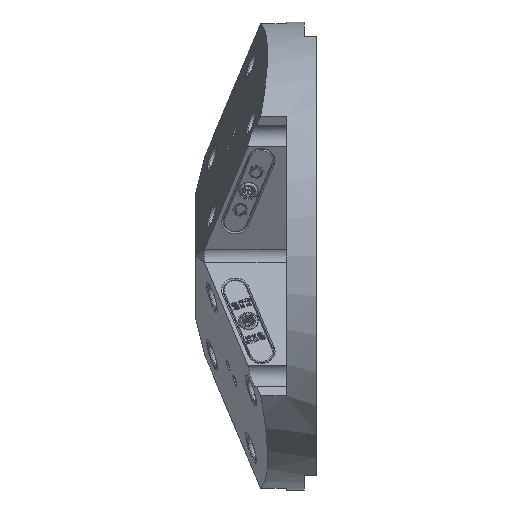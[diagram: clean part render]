
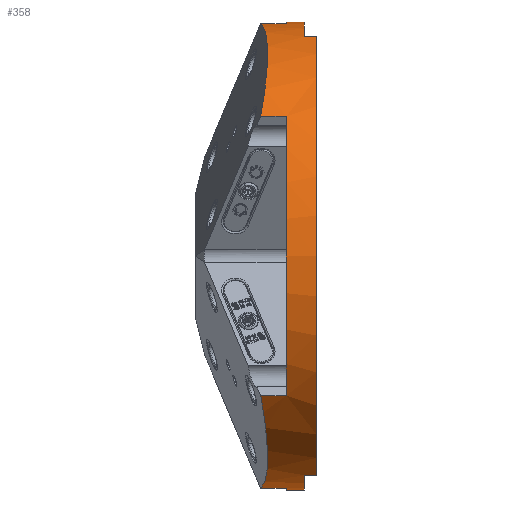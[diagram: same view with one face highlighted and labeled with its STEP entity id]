
A CAD part, left-side view. The second image highlights one B-rep face of the part: STEP entity #358.
In plain terms, the highlighted cylindrical face has radius 196.5 mm (diameter 393 mm), a partial arc.
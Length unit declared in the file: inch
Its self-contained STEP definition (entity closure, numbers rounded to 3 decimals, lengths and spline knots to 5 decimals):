
#60 = EDGE_LOOP ( 'NONE', ( #12208, #36013, #10609, #15974, #13720, #35684, #26971, #6933, #20274, #17112, #17372, #28472, #35322, #21937, #43546, #18135 ) ) ;
#358 = ADVANCED_FACE ( 'NONE', ( #5625 ), #1745, .T. ) ;
#430 = EDGE_CURVE ( 'NONE', #22010, #15156, #37328, .T. ) ;
#592 = CARTESIAN_POINT ( 'NONE',  ( 7.73622, 0., 1. ) ) ;
#845 = VERTEX_POINT ( 'NONE', #8483 ) ;
#865 = VECTOR ( 'NONE', #38716, 39.37008 ) ;
#1134 = DIRECTION ( 'NONE',  ( 0., 0., 1. ) ) ;
#1369 = CARTESIAN_POINT ( 'NONE',  ( 7.73622, 0., 1.6 ) ) ;
#1745 = CYLINDRICAL_SURFACE ( 'NONE', #10310, 7.73622 ) ;
#2068 = CARTESIAN_POINT ( 'NONE',  ( 4.61389, 6.20976, 0.15453 ) ) ;
#2161 = CIRCLE ( 'NONE', #29209, 7.73622 ) ;
#2182 = DIRECTION ( 'NONE',  ( 0., 0., 1. ) ) ;
#2308 = LINE ( 'NONE', #17087, #40942 ) ;
#2365 = CARTESIAN_POINT ( 'NONE',  ( 7.25, 2.69937, -2.1 ) ) ;
#2553 = DIRECTION ( 'NONE',  ( 0., 0., 1. ) ) ;
#2644 = CARTESIAN_POINT ( 'NONE',  ( -7.73622, 0., 1.6 ) ) ;
#2863 = LINE ( 'NONE', #2365, #37689 ) ;
#2976 = CARTESIAN_POINT ( 'NONE',  ( 0., 0., 2. ) ) ;
#3037 = CARTESIAN_POINT ( 'NONE',  ( -7.25, 2.69937, -2.1 ) ) ;
#3417 = AXIS2_PLACEMENT_3D ( 'NONE', #4604, #30248, #45513 ) ;
#3474 = VERTEX_POINT ( 'NONE', #1369 ) ;
#3814 = VECTOR ( 'NONE', #2182, 39.37008 ) ;
#4196 = EDGE_CURVE ( 'NONE', #15558, #25435, #39422, .T. ) ;
#4604 = CARTESIAN_POINT ( 'NONE',  ( 0., 0., 1. ) ) ;
#5535 = CARTESIAN_POINT ( 'NONE',  ( 7.68476, 0.89086, 0.15453 ) ) ;
#5589 = CARTESIAN_POINT ( 'NONE',  ( 0., 0., 1. ) ) ;
#5625 = FACE_OUTER_BOUND ( 'NONE', #60, .T. ) ;
#6186 = LINE ( 'NONE', #23690, #7235 ) ;
#6200 = VERTEX_POINT ( 'NONE', #8059 ) ;
#6933 = ORIENTED_EDGE ( 'NONE', *, *, #9392, .F. ) ;
#6983 = VERTEX_POINT ( 'NONE', #37564 ) ;
#7235 = VECTOR ( 'NONE', #45709, 39.37008 ) ;
#7389 = AXIS2_PLACEMENT_3D ( 'NONE', #19541, #1134, #27022 ) ;
#8059 = CARTESIAN_POINT ( 'NONE',  ( 7.25, 2.69937, 1.6 ) ) ;
#8483 = CARTESIAN_POINT ( 'NONE',  ( -7.25, 2.69937, 1.6 ) ) ;
#8725 = CARTESIAN_POINT ( 'NONE',  ( 7.73622, 0., -2.1 ) ) ;
#9101 = CARTESIAN_POINT ( 'NONE',  ( 7.43534, 3.04233, 0.46745 ) ) ;
#9392 = EDGE_CURVE ( 'NONE', #12611, #3474, #20357, .T. ) ;
#10310 = AXIS2_PLACEMENT_3D ( 'NONE', #12899, #17011, #27154 ) ;
#10473 = CIRCLE ( 'NONE', #7389, 7.73622 ) ;
#10609 = ORIENTED_EDGE ( 'NONE', *, *, #24639, .F. ) ;
#11521 = EDGE_CURVE ( 'NONE', #3474, #6200, #2161, .T. ) ;
#12208 = ORIENTED_EDGE ( 'NONE', *, *, #22668, .F. ) ;
#12611 = VERTEX_POINT ( 'NONE', #592 ) ;
#12618 = AXIS2_PLACEMENT_3D ( 'NONE', #42653, #13364, #32708 ) ;
#12899 = CARTESIAN_POINT ( 'NONE',  ( 0., 0., -2.1 ) ) ;
#13364 = DIRECTION ( 'NONE',  ( 0., 0., -1. ) ) ;
#13387 = DIRECTION ( 'NONE',  ( 0., 0., 1. ) ) ;
#13720 = ORIENTED_EDGE ( 'NONE', *, *, #32294, .F. ) ;
#14477 = LINE ( 'NONE', #14699, #16046 ) ;
#14699 = CARTESIAN_POINT ( 'NONE',  ( -7.68476, 0.89086, 1. ) ) ;
#14933 = VERTEX_POINT ( 'NONE', #30626 ) ;
#15156 = VERTEX_POINT ( 'NONE', #25987 ) ;
#15558 = VERTEX_POINT ( 'NONE', #19633 ) ;
#15974 = ORIENTED_EDGE ( 'NONE', *, *, #35511, .T. ) ;
#16046 = VECTOR ( 'NONE', #25812, 39.37008 ) ;
#16710 = EDGE_CURVE ( 'NONE', #43352, #6200, #2863, .T. ) ;
#16810 = EDGE_CURVE ( 'NONE', #24006, #39022, #14477, .T. ) ;
#17011 = DIRECTION ( 'NONE',  ( 0., 0., 1. ) ) ;
#17087 = CARTESIAN_POINT ( 'NONE',  ( 7.68476, 0.89086, 1. ) ) ;
#17112 = ORIENTED_EDGE ( 'NONE', *, *, #34506, .T. ) ;
#17372 = ORIENTED_EDGE ( 'NONE', *, *, #39296, .F. ) ;
#17740 = DIRECTION ( 'NONE',  ( 0., 0., -1. ) ) ;
#18135 = ORIENTED_EDGE ( 'NONE', *, *, #16810, .F. ) ;
#18753 = DIRECTION ( 'NONE',  ( 0., 0., -1. ) ) ;
#18857 = CARTESIAN_POINT ( 'NONE',  ( 7.25, 2.69937, 2. ) ) ;
#19492 = CARTESIAN_POINT ( 'NONE',  ( -6.35241, 4.91803, 0.46745 ) ) ;
#19541 = CARTESIAN_POINT ( 'NONE',  ( 0., 0., 1.6 ) ) ;
#19633 = CARTESIAN_POINT ( 'NONE',  ( -7.73622, 0., 1. ) ) ;
#20274 = ORIENTED_EDGE ( 'NONE', *, *, #26750, .F. ) ;
#20357 = LINE ( 'NONE', #8725, #3814 ) ;
#21355 = LINE ( 'NONE', #36110, #41831 ) ;
#21559 = DIRECTION ( 'NONE',  ( -1., 0., 0. ) ) ;
#21937 = ORIENTED_EDGE ( 'NONE', *, *, #41241, .T. ) ;
#21943 = CARTESIAN_POINT ( 'NONE',  ( 7.68476, 0.89086, 1. ) ) ;
#22010 = VERTEX_POINT ( 'NONE', #30938 ) ;
#22668 = EDGE_CURVE ( 'NONE', #15558, #24006, #45920, .T. ) ;
#22913 =( BOUNDED_CURVE ( )  B_SPLINE_CURVE ( 3, ( #2068, #35460, #9101, #27709 ),
 .UNSPECIFIED., .F., .F. ) 
 B_SPLINE_CURVE_WITH_KNOTS ( ( 4, 4 ),
 ( 5.875, 6.69137 ),
 .UNSPECIFIED. ) 
 CURVE ( )  GEOMETRIC_REPRESENTATION_ITEM ( )  RATIONAL_B_SPLINE_CURVE ( ( 1., 0.945, 0.945, 1. ) ) 
 REPRESENTATION_ITEM ( '' )  );
#23600 = CARTESIAN_POINT ( 'NONE',  ( -7.68476, 0.89086, 0.15453 ) ) ;
#23690 = CARTESIAN_POINT ( 'NONE',  ( -4.61389, 6.20976, 1. ) ) ;
#24006 = VERTEX_POINT ( 'NONE', #35850 ) ;
#24181 = CARTESIAN_POINT ( 'NONE',  ( -7.73622, 0., -2.1 ) ) ;
#24639 = EDGE_CURVE ( 'NONE', #845, #25435, #10473, .T. ) ;
#24811 = LINE ( 'NONE', #3037, #34031 ) ;
#25435 = VERTEX_POINT ( 'NONE', #2644 ) ;
#25812 = DIRECTION ( 'NONE',  ( 0., 0., -1. ) ) ;
#25987 = CARTESIAN_POINT ( 'NONE',  ( 4.61389, 6.20976, 1. ) ) ;
#26750 = EDGE_CURVE ( 'NONE', #30534, #12611, #43633, .T. ) ;
#26971 = ORIENTED_EDGE ( 'NONE', *, *, #11521, .F. ) ;
#27015 = VERTEX_POINT ( 'NONE', #5535 ) ;
#27022 = DIRECTION ( 'NONE',  ( 1., 0., 0. ) ) ;
#27154 = DIRECTION ( 'NONE',  ( 1., 0., 0. ) ) ;
#27457 = CARTESIAN_POINT ( 'NONE',  ( -4.61389, 6.20976, 0.15453 ) ) ;
#27709 = CARTESIAN_POINT ( 'NONE',  ( 7.68476, 0.89086, 0.15453 ) ) ;
#28472 = ORIENTED_EDGE ( 'NONE', *, *, #44472, .F. ) ;
#29209 = AXIS2_PLACEMENT_3D ( 'NONE', #37613, #33979, #29875 ) ;
#29875 = DIRECTION ( 'NONE',  ( 1., 0., 0. ) ) ;
#29975 =( BOUNDED_CURVE ( )  B_SPLINE_CURVE ( 3, ( #23600, #30609, #19492, #27457 ),
 .UNSPECIFIED., .F., .T. ) 
 B_SPLINE_CURVE_WITH_KNOTS ( ( 4, 4 ),
 ( 5.875, 6.69137 ),
 .UNSPECIFIED. ) 
 CURVE ( )  GEOMETRIC_REPRESENTATION_ITEM ( )  RATIONAL_B_SPLINE_CURVE ( ( 1., 0.945, 0.945, 1. ) ) 
 REPRESENTATION_ITEM ( '' )  );
#30248 = DIRECTION ( 'NONE',  ( 0., 0., -1. ) ) ;
#30534 = VERTEX_POINT ( 'NONE', #21943 ) ;
#30609 = CARTESIAN_POINT ( 'NONE',  ( -7.43534, 3.04233, 0.46745 ) ) ;
#30626 = CARTESIAN_POINT ( 'NONE',  ( 4.61389, 6.20976, 0.15453 ) ) ;
#30938 = CARTESIAN_POINT ( 'NONE',  ( -4.61389, 6.20976, 1. ) ) ;
#31329 = CARTESIAN_POINT ( 'NONE',  ( -7.68476, 0.89086, 0.15453 ) ) ;
#31457 = CIRCLE ( 'NONE', #42317, 7.73622 ) ;
#32294 = EDGE_CURVE ( 'NONE', #43352, #42763, #31457, .T. ) ;
#32708 = DIRECTION ( 'NONE',  ( 0.5, -0.866, 0. ) ) ;
#33773 = CARTESIAN_POINT ( 'NONE',  ( -7.25, 2.69937, 2. ) ) ;
#33979 = DIRECTION ( 'NONE',  ( 0., 0., 1. ) ) ;
#34031 = VECTOR ( 'NONE', #2553, 39.37008 ) ;
#34506 = EDGE_CURVE ( 'NONE', #30534, #27015, #2308, .T. ) ;
#35322 = ORIENTED_EDGE ( 'NONE', *, *, #430, .F. ) ;
#35460 = CARTESIAN_POINT ( 'NONE',  ( 6.35241, 4.91803, 0.46745 ) ) ;
#35511 = EDGE_CURVE ( 'NONE', #845, #42763, #24811, .T. ) ;
#35684 = ORIENTED_EDGE ( 'NONE', *, *, #16710, .T. ) ;
#35850 = CARTESIAN_POINT ( 'NONE',  ( -7.68476, 0.89086, 1. ) ) ;
#35910 = AXIS2_PLACEMENT_3D ( 'NONE', #5589, #47208, #21559 ) ;
#36013 = ORIENTED_EDGE ( 'NONE', *, *, #4196, .T. ) ;
#36110 = CARTESIAN_POINT ( 'NONE',  ( 4.61389, 6.20976, 1. ) ) ;
#37328 = CIRCLE ( 'NONE', #12618, 7.73622 ) ;
#37564 = CARTESIAN_POINT ( 'NONE',  ( -4.61389, 6.20976, 0.15453 ) ) ;
#37613 = CARTESIAN_POINT ( 'NONE',  ( 0., 0., 1.6 ) ) ;
#37689 = VECTOR ( 'NONE', #43275, 39.37008 ) ;
#38716 = DIRECTION ( 'NONE',  ( 0., 0., 1. ) ) ;
#39022 = VERTEX_POINT ( 'NONE', #31329 ) ;
#39296 = EDGE_CURVE ( 'NONE', #14933, #27015, #22913, .T. ) ;
#39422 = LINE ( 'NONE', #24181, #865 ) ;
#40942 = VECTOR ( 'NONE', #18753, 39.37008 ) ;
#41241 = EDGE_CURVE ( 'NONE', #22010, #6983, #6186, .T. ) ;
#41831 = VECTOR ( 'NONE', #17740, 39.37008 ) ;
#42317 = AXIS2_PLACEMENT_3D ( 'NONE', #2976, #13387, #47260 ) ;
#42653 = CARTESIAN_POINT ( 'NONE',  ( 0., 0., 1. ) ) ;
#42763 = VERTEX_POINT ( 'NONE', #33773 ) ;
#42791 = EDGE_CURVE ( 'NONE', #39022, #6983, #29975, .T. ) ;
#43275 = DIRECTION ( 'NONE',  ( 0., 0., -1. ) ) ;
#43352 = VERTEX_POINT ( 'NONE', #18857 ) ;
#43546 = ORIENTED_EDGE ( 'NONE', *, *, #42791, .F. ) ;
#43633 = CIRCLE ( 'NONE', #35910, 7.73622 ) ;
#44472 = EDGE_CURVE ( 'NONE', #15156, #14933, #21355, .T. ) ;
#45513 = DIRECTION ( 'NONE',  ( 0.5, 0.866, 0. ) ) ;
#45709 = DIRECTION ( 'NONE',  ( 0., 0., -1. ) ) ;
#45920 = CIRCLE ( 'NONE', #3417, 7.73622 ) ;
#47208 = DIRECTION ( 'NONE',  ( 0., 0., -1. ) ) ;
#47260 = DIRECTION ( 'NONE',  ( 1., 0., 0. ) ) ;
